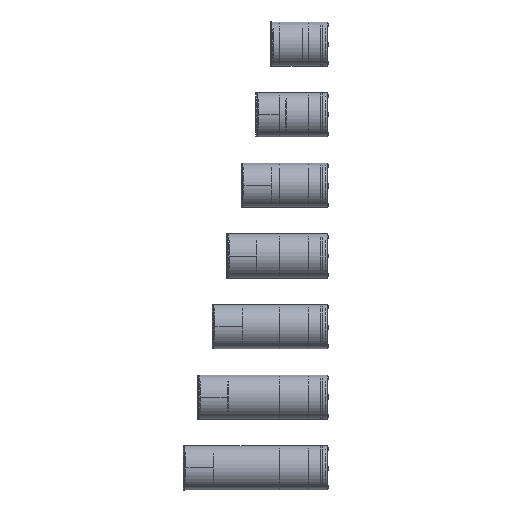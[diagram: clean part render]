
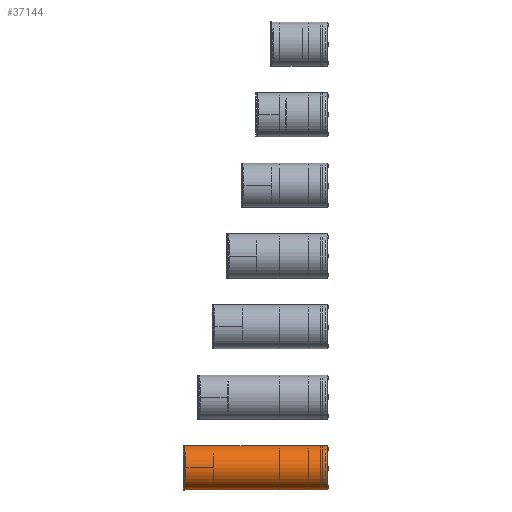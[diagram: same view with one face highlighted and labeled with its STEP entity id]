
A CAD part, left-side view. The second image highlights one B-rep face of the part: STEP entity #37144.
In plain terms, the highlighted cylindrical face has radius 153 mm (diameter 306 mm), a partial arc.
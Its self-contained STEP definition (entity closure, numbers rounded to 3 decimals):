
#1843=LINE('',#64774,#3129);
#1844=LINE('',#64776,#3130);
#3129=VECTOR('',#48571,10.);
#3130=VECTOR('',#48574,10.);
#4310=CYLINDRICAL_SURFACE('',#40884,153.);
#5897=FACE_OUTER_BOUND('',#8278,.T.);
#8278=EDGE_LOOP('',(#27903,#27904,#27905,#27906));
#12350=CIRCLE('',#40832,153.);
#12382=CIRCLE('',#40875,153.);
#15730=VERTEX_POINT('',#64275);
#15731=VERTEX_POINT('',#64277);
#15771=VERTEX_POINT('',#64754);
#15773=VERTEX_POINT('',#64760);
#20142=EDGE_CURVE('',#15730,#15731,#12350,.T.);
#20207=EDGE_CURVE('',#15771,#15773,#12382,.T.);
#20213=EDGE_CURVE('',#15773,#15730,#1843,.T.);
#20214=EDGE_CURVE('',#15731,#15771,#1844,.T.);
#27903=ORIENTED_EDGE('',*,*,#20207,.F.);
#27904=ORIENTED_EDGE('',*,*,#20214,.F.);
#27905=ORIENTED_EDGE('',*,*,#20142,.F.);
#27906=ORIENTED_EDGE('',*,*,#20213,.F.);
#37144=ADVANCED_FACE('',(#5897),#4310,.T.);
#40832=AXIS2_PLACEMENT_3D('',#64278,#48460,#48461);
#40875=AXIS2_PLACEMENT_3D('',#64763,#48552,#48553);
#40884=AXIS2_PLACEMENT_3D('',#64775,#48572,#48573);
#48460=DIRECTION('center_axis',(0.,-1.,0.));
#48461=DIRECTION('ref_axis',(-1.,0.,0.));
#48552=DIRECTION('center_axis',(0.,1.,0.));
#48553=DIRECTION('ref_axis',(-1.,0.,0.));
#48571=DIRECTION('',(0.,-1.,0.));
#48572=DIRECTION('center_axis',(0.,1.,0.));
#48573=DIRECTION('ref_axis',(-1.,0.,0.));
#48574=DIRECTION('',(0.,1.,0.));
#64275=CARTESIAN_POINT('',(305.905,6.5,-2668.529));
#64277=CARTESIAN_POINT('',(305.905,6.5,-2839.147));
#64278=CARTESIAN_POINT('Origin',(178.896,6.5,-2753.838));
#64754=CARTESIAN_POINT('',(305.905,992.,-2839.147));
#64760=CARTESIAN_POINT('',(305.905,992.,-2668.529));
#64763=CARTESIAN_POINT('Origin',(178.896,992.,-2753.838));
#64774=CARTESIAN_POINT('',(305.905,-310.,-2668.529));
#64775=CARTESIAN_POINT('Origin',(178.896,7.,-2753.838));
#64776=CARTESIAN_POINT('',(305.905,-310.,-2839.147));
